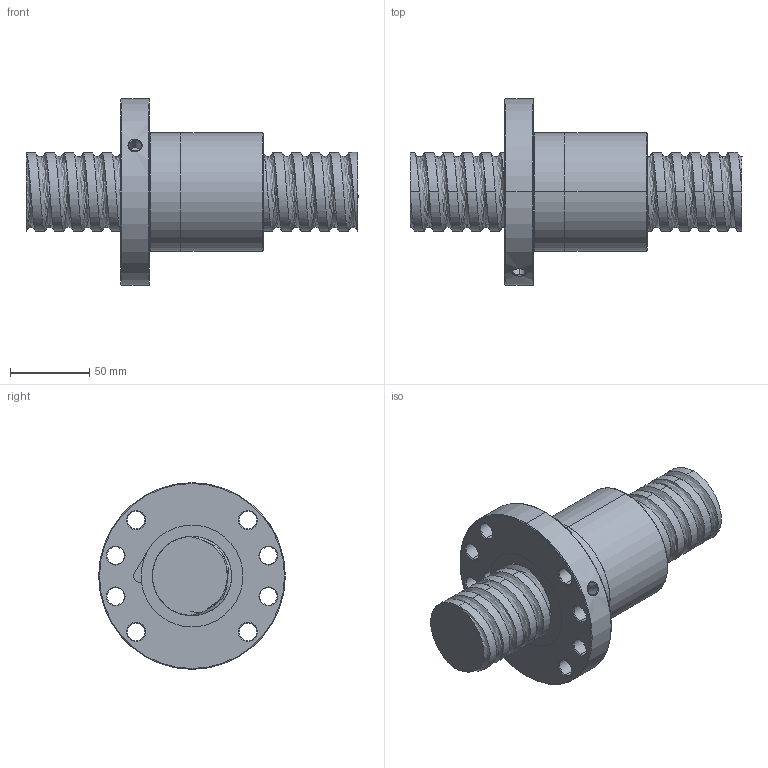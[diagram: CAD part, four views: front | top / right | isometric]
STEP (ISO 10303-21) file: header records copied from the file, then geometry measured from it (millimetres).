
FILE_DESCRIPTION (( 'STEP AP214' ), '1' );
FILE_NAME ('FSDC05012T5-F-A.STEP', '2010-06-25T12:17:03', ( 'XPAUTO' ), ( 'XPAUTO' ), 'SwSTEP 2.0', 'SolidWorks 2007', '' );
FILE_SCHEMA (( 'AUTOMOTIVE_DESIGN' ));
Length unit declared in the file: millimetre
Products named in the file (3): FSDC05012T5-F-A.sldasm-Part-2_預設; FSDC05012T5-F-A.sldasm-Part-1_預設; FSDC05012T5-F-A
Assembly tree (2 placements, depth 2):
  FSDC05012T5-F-A
    FSDC05012T5-F-A.sldasm-Part-1_預設
    FSDC05012T5-F-A.sldasm-Part-2_預設
Bounding box: 210 x 118 x 118 mm (x, y, z)
Volume: 702948.6 mm3; surface area: 102280.1 mm2
Topology: 2 solids, 2 shells, 135 faces, 335 edges, 209 vertices
Faces by surface type: cylinder 76, cone 32, plane 16, torus 6, bspline 5
Entity records: 26904 total; most frequent: CARTESIAN_POINT 23669, ORIENTED_EDGE 670, DIRECTION 641, EDGE_CURVE 335, AXIS2_PLACEMENT_3D 263, VERTEX_POINT 209, EDGE_LOOP 160, FACE_OUTER_BOUND 135
